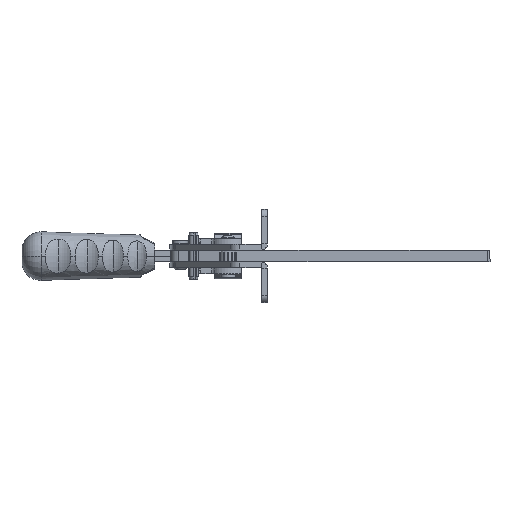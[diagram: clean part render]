
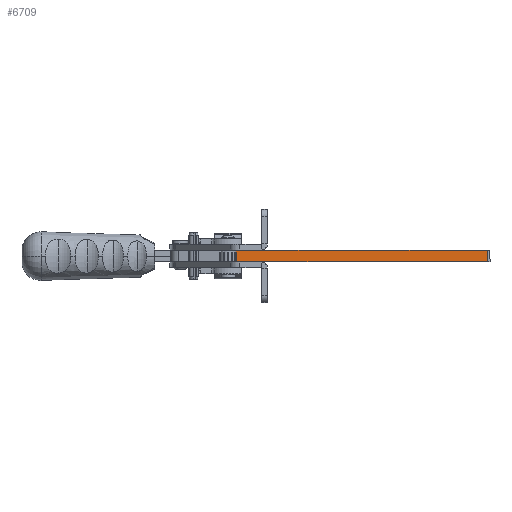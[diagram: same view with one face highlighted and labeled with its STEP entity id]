
A CAD part, front view. The second image highlights one B-rep face of the part: STEP entity #6709.
In plain terms, the highlighted planar face has unit normal (0, -1, 0) as drawn and (0, 0, 1) by its records, which use the part's own axes.
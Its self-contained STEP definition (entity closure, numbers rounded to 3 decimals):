
#178 = ORIENTED_EDGE ( 'NONE', *, *, #22467, .F. ) ;
#349 = ORIENTED_EDGE ( 'NONE', *, *, #30394, .F. ) ;
#1122 = LINE ( 'NONE', #20952, #12931 ) ;
#1711 = ORIENTED_EDGE ( 'NONE', *, *, #7046, .F. ) ;
#1872 = PLANE ( 'NONE',  #31233 ) ;
#1900 = DIRECTION ( 'NONE',  ( 1., 0., 0. ) ) ;
#2074 = EDGE_LOOP ( 'NONE', ( #21233, #178, #29326, #24319, #5661, #349, #2262, #9919, #25100, #36042, #21963, #1711 ) ) ;
#2093 = LINE ( 'NONE', #5479, #15946 ) ;
#2262 = ORIENTED_EDGE ( 'NONE', *, *, #31079, .T. ) ;
#2374 = EDGE_CURVE ( 'NONE', #16856, #35491, #9894, .T. ) ;
#2502 = EDGE_CURVE ( 'NONE', #21363, #37152, #28532, .T. ) ;
#3073 = CARTESIAN_POINT ( 'NONE',  ( 27., 0., 13. ) ) ;
#3262 = CARTESIAN_POINT ( 'NONE',  ( 136., 0., 13. ) ) ;
#4328 = EDGE_CURVE ( 'NONE', #10864, #12403, #20437, .T. ) ;
#4617 = CARTESIAN_POINT ( 'NONE',  ( 107.5, 0., 13. ) ) ;
#5044 = CARTESIAN_POINT ( 'NONE',  ( 77.5, -0.1, 13. ) ) ;
#5220 = CARTESIAN_POINT ( 'NONE',  ( 107., -0.1, 13. ) ) ;
#5324 = VECTOR ( 'NONE', #16927, 1000. ) ;
#5479 = CARTESIAN_POINT ( 'NONE',  ( 38.488, 0., 13. ) ) ;
#5661 = ORIENTED_EDGE ( 'NONE', *, *, #2374, .T. ) ;
#6709 = ADVANCED_FACE ( 'NONE', ( #15697 ), #1872, .T. ) ;
#6959 = VERTEX_POINT ( 'NONE', #27511 ) ;
#7046 = EDGE_CURVE ( 'NONE', #21363, #6959, #34087, .T. ) ;
#7117 = DIRECTION ( 'NONE',  ( 1., 0., 0. ) ) ;
#7302 = CARTESIAN_POINT ( 'NONE',  ( 38.488, 0., 13. ) ) ;
#8904 = CARTESIAN_POINT ( 'NONE',  ( 107., -0.1, 13. ) ) ;
#9587 = CARTESIAN_POINT ( 'NONE',  ( 36.083, -5., 13. ) ) ;
#9894 = LINE ( 'NONE', #10076, #22451 ) ;
#9919 = ORIENTED_EDGE ( 'NONE', *, *, #33144, .T. ) ;
#10017 = DIRECTION ( 'NONE',  ( 0., 0., 1. ) ) ;
#10076 = CARTESIAN_POINT ( 'NONE',  ( 77., -0.1, 13. ) ) ;
#10539 = EDGE_CURVE ( 'NONE', #16856, #36856, #24567, .T. ) ;
#10569 = CARTESIAN_POINT ( 'NONE',  ( 38.488, 0., 13. ) ) ;
#10864 = VERTEX_POINT ( 'NONE', #29991 ) ;
#11136 = CARTESIAN_POINT ( 'NONE',  ( 77., -0.1, 13. ) ) ;
#11825 = VECTOR ( 'NONE', #21107, 1000. ) ;
#12403 = VERTEX_POINT ( 'NONE', #3262 ) ;
#12604 = LINE ( 'NONE', #7302, #24439 ) ;
#12931 = VECTOR ( 'NONE', #32833, 1000. ) ;
#12949 = EDGE_CURVE ( 'NONE', #13213, #12403, #24681, .T. ) ;
#13213 = VERTEX_POINT ( 'NONE', #4617 ) ;
#14951 = VERTEX_POINT ( 'NONE', #17117 ) ;
#15697 = FACE_OUTER_BOUND ( 'NONE', #2074, .T. ) ;
#15916 = LINE ( 'NONE', #32883, #35221 ) ;
#15946 = VECTOR ( 'NONE', #1900, 1000. ) ;
#16856 = VERTEX_POINT ( 'NONE', #11136 ) ;
#16927 = DIRECTION ( 'NONE',  ( 1., 0., 0. ) ) ;
#17070 = VECTOR ( 'NONE', #25489, 1000. ) ;
#17117 = CARTESIAN_POINT ( 'NONE',  ( 77.5, 0., 13. ) ) ;
#17751 = CARTESIAN_POINT ( 'NONE',  ( 77.5, -0.1, 13. ) ) ;
#18661 = DIRECTION ( 'NONE',  ( 1., 0., 0. ) ) ;
#19438 = VECTOR ( 'NONE', #37200, 1000. ) ;
#19689 = CARTESIAN_POINT ( 'NONE',  ( 27., -5., 13. ) ) ;
#20278 = EDGE_CURVE ( 'NONE', #36856, #14951, #30897, .T. ) ;
#20437 = LINE ( 'NONE', #29100, #22427 ) ;
#20743 = CARTESIAN_POINT ( 'NONE',  ( 77., 0., 13. ) ) ;
#20902 = CARTESIAN_POINT ( 'NONE',  ( 107., 0., 13. ) ) ;
#20952 = CARTESIAN_POINT ( 'NONE',  ( 107.5, -0.1, 13. ) ) ;
#21107 = DIRECTION ( 'NONE',  ( 1., 0., 0. ) ) ;
#21233 = ORIENTED_EDGE ( 'NONE', *, *, #2502, .T. ) ;
#21363 = VERTEX_POINT ( 'NONE', #25063 ) ;
#21963 = ORIENTED_EDGE ( 'NONE', *, *, #30546, .F. ) ;
#22077 = DIRECTION ( 'NONE',  ( 1., 0., 0. ) ) ;
#22427 = VECTOR ( 'NONE', #29471, 1000. ) ;
#22451 = VECTOR ( 'NONE', #29688, 1000. ) ;
#22467 = EDGE_CURVE ( 'NONE', #14951, #37152, #12604, .T. ) ;
#24319 = ORIENTED_EDGE ( 'NONE', *, *, #10539, .F. ) ;
#24439 = VECTOR ( 'NONE', #7117, 1000. ) ;
#24567 = LINE ( 'NONE', #34164, #17070 ) ;
#24681 = LINE ( 'NONE', #33518, #36248 ) ;
#24760 = DIRECTION ( 'NONE',  ( 0., -1., 0. ) ) ;
#25063 = CARTESIAN_POINT ( 'NONE',  ( 107., -0.1, 13. ) ) ;
#25100 = ORIENTED_EDGE ( 'NONE', *, *, #4328, .T. ) ;
#25489 = DIRECTION ( 'NONE',  ( 1., 0., 0. ) ) ;
#25614 = DIRECTION ( 'NONE',  ( 0., 1., 0. ) ) ;
#27511 = CARTESIAN_POINT ( 'NONE',  ( 107.5, -0.1, 13. ) ) ;
#28532 = LINE ( 'NONE', #8904, #19438 ) ;
#29100 = CARTESIAN_POINT ( 'NONE',  ( 136., 0., 13. ) ) ;
#29326 = ORIENTED_EDGE ( 'NONE', *, *, #20278, .F. ) ;
#29471 = DIRECTION ( 'NONE',  ( 0., 1., 0. ) ) ;
#29688 = DIRECTION ( 'NONE',  ( 0., 1., 0. ) ) ;
#29991 = CARTESIAN_POINT ( 'NONE',  ( 136., -5., 13. ) ) ;
#30394 = EDGE_CURVE ( 'NONE', #32440, #35491, #2093, .T. ) ;
#30546 = EDGE_CURVE ( 'NONE', #6959, #13213, #1122, .T. ) ;
#30897 = LINE ( 'NONE', #5044, #33352 ) ;
#31079 = EDGE_CURVE ( 'NONE', #32440, #36359, #15916, .T. ) ;
#31233 = AXIS2_PLACEMENT_3D ( 'NONE', #10569, #10017, #22077 ) ;
#32440 = VERTEX_POINT ( 'NONE', #3073 ) ;
#32833 = DIRECTION ( 'NONE',  ( 0., 1., 0. ) ) ;
#32883 = CARTESIAN_POINT ( 'NONE',  ( 27., 0., 13. ) ) ;
#33144 = EDGE_CURVE ( 'NONE', #36359, #10864, #35233, .T. ) ;
#33352 = VECTOR ( 'NONE', #25614, 1000. ) ;
#33518 = CARTESIAN_POINT ( 'NONE',  ( 38.488, 0., 13. ) ) ;
#34087 = LINE ( 'NONE', #5220, #5324 ) ;
#34164 = CARTESIAN_POINT ( 'NONE',  ( 77., -0.1, 13. ) ) ;
#35221 = VECTOR ( 'NONE', #24760, 1000. ) ;
#35233 = LINE ( 'NONE', #9587, #11825 ) ;
#35491 = VERTEX_POINT ( 'NONE', #20743 ) ;
#36042 = ORIENTED_EDGE ( 'NONE', *, *, #12949, .F. ) ;
#36248 = VECTOR ( 'NONE', #18661, 1000. ) ;
#36359 = VERTEX_POINT ( 'NONE', #19689 ) ;
#36856 = VERTEX_POINT ( 'NONE', #17751 ) ;
#37152 = VERTEX_POINT ( 'NONE', #20902 ) ;
#37200 = DIRECTION ( 'NONE',  ( 0., 1., 0. ) ) ;
